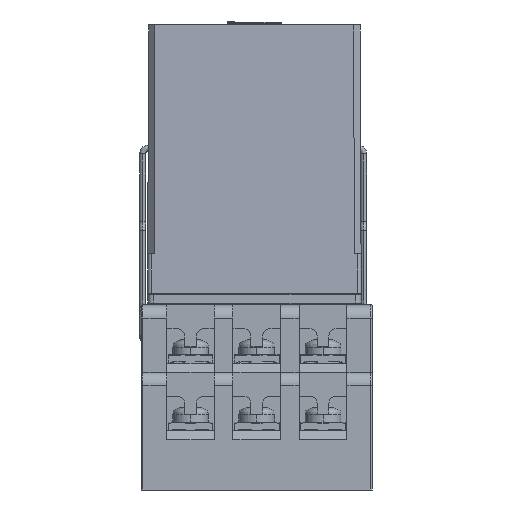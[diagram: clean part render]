
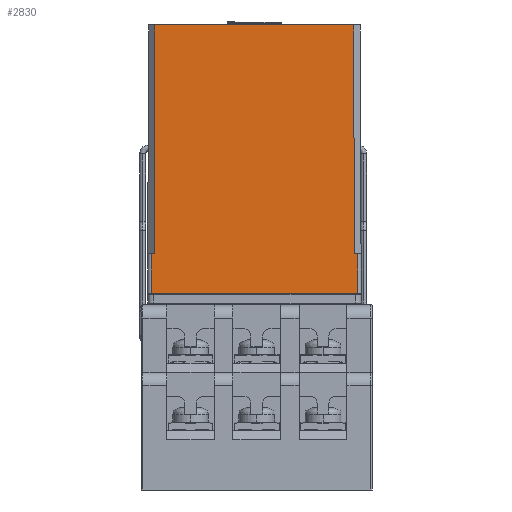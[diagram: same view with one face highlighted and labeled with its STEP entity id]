
A CAD part, left-side view. The second image highlights one B-rep face of the part: STEP entity #2830.
In plain terms, the highlighted planar face has unit normal (-1, 0, 0.004) as drawn and (-0.004, 1, 0) by its records, which use the part's own axes.
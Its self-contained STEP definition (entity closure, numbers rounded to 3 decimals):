
#346 = ORIENTED_EDGE ( 'NONE', *, *, #99976, .T. ) ;
#1146 = DIRECTION ( 'NONE',  ( -1., -0.004, 0.002 ) ) ;
#2440 = DIRECTION ( 'NONE',  ( 0., 0., -1. ) ) ;
#2620 = VECTOR ( 'NONE', #2440, 1000. ) ;
#2780 = VERTEX_POINT ( 'NONE', #99406 ) ;
#2830 = ADVANCED_FACE ( 'NONE', ( #54077 ), #47754, .T. ) ;
#3501 = VERTEX_POINT ( 'NONE', #81062 ) ;
#3749 = CARTESIAN_POINT ( 'NONE',  ( -34.726, 43.951, -16.657 ) ) ;
#4612 = VECTOR ( 'NONE', #12028, 1000. ) ;
#6148 = VERTEX_POINT ( 'NONE', #94280 ) ;
#6220 = EDGE_CURVE ( 'NONE', #29971, #55158, #97420, .T. ) ;
#7391 = LINE ( 'NONE', #64657, #26511 ) ;
#9805 = EDGE_CURVE ( 'NONE', #6148, #25518, #85362, .T. ) ;
#10171 = CARTESIAN_POINT ( 'NONE',  ( 3.574, 44.118, -16.726 ) ) ;
#11188 = EDGE_LOOP ( 'NONE', ( #69691, #26100, #346, #82063, #13847, #21286, #90395, #93490 ) ) ;
#12028 = DIRECTION ( 'NONE',  ( 1., 0.004, 0.002 ) ) ;
#13553 = DIRECTION ( 'NONE',  ( 0., 0., -1. ) ) ;
#13847 = ORIENTED_EDGE ( 'NONE', *, *, #47430, .F. ) ;
#15486 = VECTOR ( 'NONE', #45999, 1000. ) ;
#21286 = ORIENTED_EDGE ( 'NONE', *, *, #6220, .T. ) ;
#24291 = CARTESIAN_POINT ( 'NONE',  ( 3.574, 44.118, -16.726 ) ) ;
#25518 = VERTEX_POINT ( 'NONE', #69894 ) ;
#26100 = ORIENTED_EDGE ( 'NONE', *, *, #103256, .T. ) ;
#26511 = VECTOR ( 'NONE', #31522, 1000. ) ;
#28144 = LINE ( 'NONE', #83933, #2620 ) ;
#29971 = VERTEX_POINT ( 'NONE', #10171 ) ;
#31419 = LINE ( 'NONE', #71934, #83825 ) ;
#31522 = DIRECTION ( 'NONE',  ( 1., 0.004, 0.004 ) ) ;
#37478 = VERTEX_POINT ( 'NONE', #87090 ) ;
#37800 = DIRECTION ( 'NONE',  ( -0.004, 1., 0. ) ) ;
#38322 = AXIS2_PLACEMENT_3D ( 'NONE', #69866, #37800, #39370 ) ;
#39370 = DIRECTION ( 'NONE',  ( -1., -0.004, 0. ) ) ;
#45999 = DIRECTION ( 'NONE',  ( 0., 0., -1. ) ) ;
#46118 = CARTESIAN_POINT ( 'NONE',  ( 3.574, 44.118, -16.022 ) ) ;
#47430 = EDGE_CURVE ( 'NONE', #29971, #25518, #101920, .T. ) ;
#47516 = EDGE_CURVE ( 'NONE', #2780, #79829, #68781, .T. ) ;
#47754 = PLANE ( 'NONE',  #38322 ) ;
#48033 = VECTOR ( 'NONE', #13553, 1000. ) ;
#54077 = FACE_OUTER_BOUND ( 'NONE', #11188, .T. ) ;
#54538 = CARTESIAN_POINT ( 'NONE',  ( -34.726, 43.951, 16.657 ) ) ;
#55158 = VERTEX_POINT ( 'NONE', #3749 ) ;
#55626 = DIRECTION ( 'NONE',  ( 0., 0., 1. ) ) ;
#57275 = CARTESIAN_POINT ( 'NONE',  ( 3.574, 44.118, 16.726 ) ) ;
#60119 = CARTESIAN_POINT ( 'NONE',  ( 10.274, 44.147, -17.3 ) ) ;
#64657 = CARTESIAN_POINT ( 'NONE',  ( 3.574, 44.118, 17.271 ) ) ;
#68141 = CARTESIAN_POINT ( 'NONE',  ( 10.274, 44.147, -17.9 ) ) ;
#68781 = LINE ( 'NONE', #54538, #4612 ) ;
#68947 = VECTOR ( 'NONE', #1146, 1000. ) ;
#69691 = ORIENTED_EDGE ( 'NONE', *, *, #72106, .F. ) ;
#69866 = CARTESIAN_POINT ( 'NONE',  ( 10.274, 44.147, -17.9 ) ) ;
#69894 = CARTESIAN_POINT ( 'NONE',  ( 3.574, 44.118, -17.271 ) ) ;
#71934 = CARTESIAN_POINT ( 'NONE',  ( -34.726, 43.951, -17.9 ) ) ;
#72106 = EDGE_CURVE ( 'NONE', #3501, #79829, #28144, .T. ) ;
#77465 = DIRECTION ( 'NONE',  ( -1., -0.004, 0.004 ) ) ;
#79829 = VERTEX_POINT ( 'NONE', #57275 ) ;
#81062 = CARTESIAN_POINT ( 'NONE',  ( 3.574, 44.118, 17.271 ) ) ;
#82063 = ORIENTED_EDGE ( 'NONE', *, *, #9805, .T. ) ;
#83825 = VECTOR ( 'NONE', #55626, 1000. ) ;
#83933 = CARTESIAN_POINT ( 'NONE',  ( 3.574, 44.118, 18.379 ) ) ;
#85362 = LINE ( 'NONE', #60119, #99293 ) ;
#85500 = LINE ( 'NONE', #68141, #15486 ) ;
#87090 = CARTESIAN_POINT ( 'NONE',  ( 10.274, 44.147, 17.3 ) ) ;
#90395 = ORIENTED_EDGE ( 'NONE', *, *, #96001, .T. ) ;
#93490 = ORIENTED_EDGE ( 'NONE', *, *, #47516, .T. ) ;
#94280 = CARTESIAN_POINT ( 'NONE',  ( 10.274, 44.147, -17.3 ) ) ;
#96001 = EDGE_CURVE ( 'NONE', #55158, #2780, #31419, .T. ) ;
#97420 = LINE ( 'NONE', #24291, #68947 ) ;
#99293 = VECTOR ( 'NONE', #77465, 1000. ) ;
#99406 = CARTESIAN_POINT ( 'NONE',  ( -34.726, 43.951, 16.657 ) ) ;
#99976 = EDGE_CURVE ( 'NONE', #37478, #6148, #85500, .T. ) ;
#101920 = LINE ( 'NONE', #46118, #48033 ) ;
#103256 = EDGE_CURVE ( 'NONE', #3501, #37478, #7391, .T. ) ;
